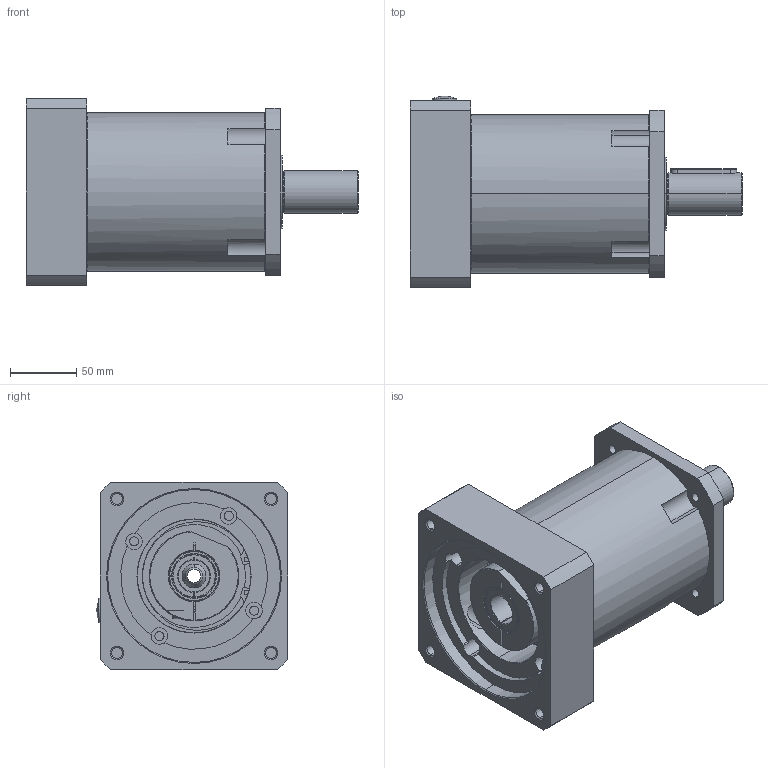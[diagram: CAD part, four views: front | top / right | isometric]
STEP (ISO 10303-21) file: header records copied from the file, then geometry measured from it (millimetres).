
FILE_DESCRIPTION (( 'STEP AP214' ), '1' );
FILE_NAME ('AL-042-RRR-FFF-MMM-S-LL-XXX-BXX-0000.STEP', '2019-10-23T15:40:01', ( '' ), ( '' ), 'SwSTEP 2.0', 'SolidWorks 2019', '' );
FILE_SCHEMA (( 'AUTOMOTIVE_DESIGN' ));
Length unit declared in the file: millimetre
Products named in the file (1): AL-042-RRR-FFF-MMM-S-LL-XXX-BXX-0000
Bounding box: 251.5 x 145.1 x 142 mm (x, y, z)
Surface area: 192449.4 mm2 (no closed solid volume)
Topology: 0 solids, 71 shells, 340 faces, 2019 edges, 1730 vertices
Faces by surface type: plane 153, cylinder 106, cone 47, torus 29, bspline 3, sphere 2
Entity records: 29719 total; most frequent: CARTESIAN_POINT 11681, ORIENTED_EDGE 2598, DIRECTION 2478, EDGE_CURVE 2011, VERTEX_POINT 1730, LINE 992, VECTOR 992, AXIS2_PLACEMENT_3D 743
